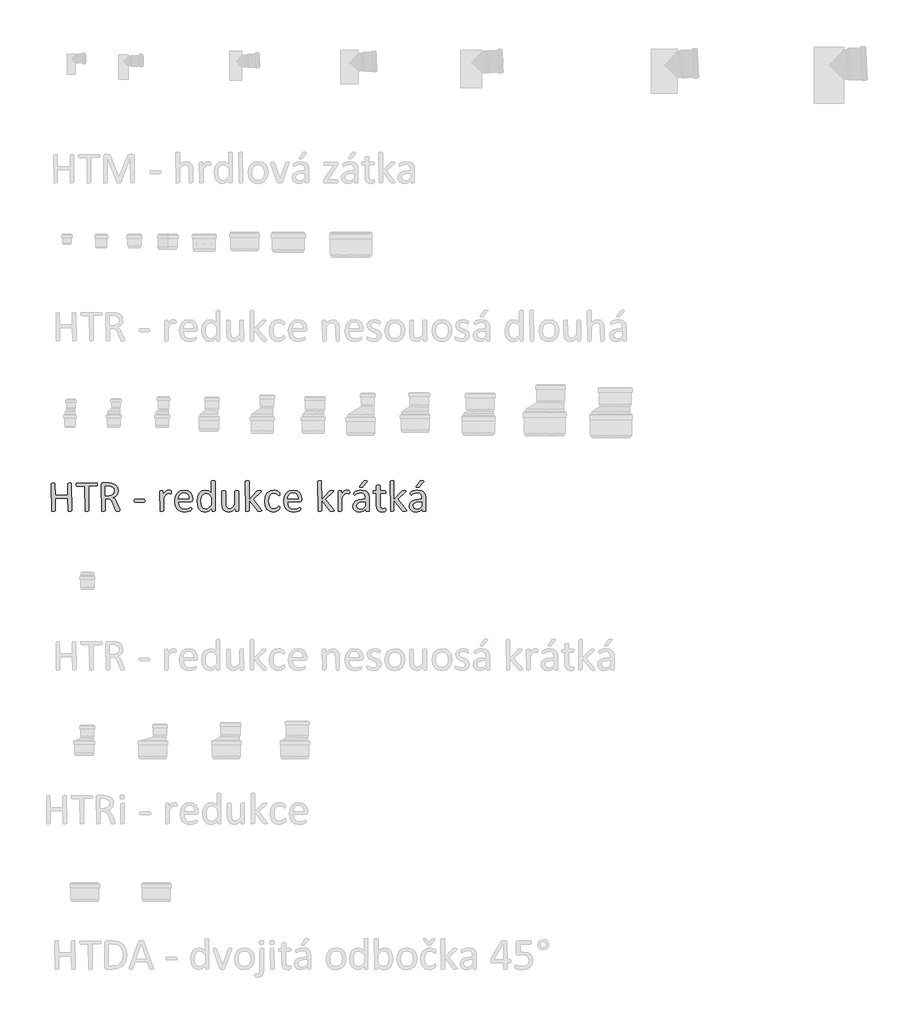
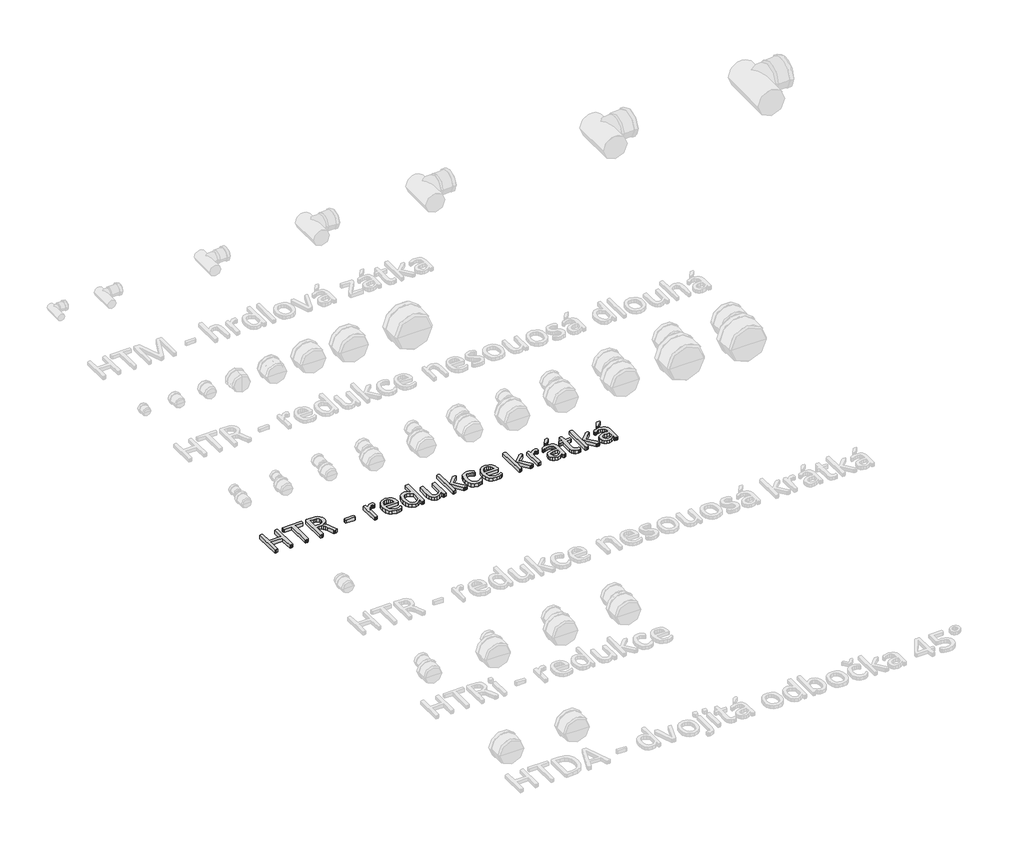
# One storey, part 19 of 26: 1 proxy.
"""IFC4 building model written with IfcOpenShell, lengths in millimetres."""

from ifc_helpers import new_model, si_unit, origin, origin_with_axes, place, context, project, spatial, polyline, outline, extrude, element, save

model = new_model("IFC4")

# Units and contexts
model_context = context("Model", 3, world=origin())
ifc_project = project(units=[si_unit("LENGTHUNIT", "METRE", prefix="MILLI")], contexts=[model_context])

# Site, building, storey
site = spatial("IfcSite", under=ifc_project)
building = spatial("IfcBuilding", under=site)
storey = spatial("IfcBuildingStorey", under=building, Name="Podlaží 1", Elevation=0.0)

# Proxy
placement = place(None, origin())
element("IfcBuildingElementProxy", 1, Name="120mm Arial", ObjectType="120mm Arial", at=placement, inside=storey, context=model_context, shape_type="SweptSolid", body=[
    extrude(outline(polyline([(-20480.0657483, 13861.6352271), (-20484.2817655, 13858.9029584), (-20488.1358927, 13858.66773), (-20492.1166815, 13858.9029584), (-20494.5775327, 13859.4457933), (-20496.2784151, 13914.2540162), (-20549.5486061, 13914.2540162), (-20549.5486061, 13861.5990381), (-20553.7465288, 13858.9029584), (-20557.6549395, 13858.66773), (-20561.5271613, 13858.9029584), (-20564.0603905, 13859.4638877), (-20565.7612729, 13976.1371865), (-20561.5271613, 13978.8694551), (-20557.6549395, 13979.1046835), (-20553.7465288, 13978.8694551), (-20551.2494886, 13978.3085258), (-20549.5486061, 13928.1505878), (-20496.2784151, 13928.1505878), (-20496.2784151, 13976.1371865), (-20492.1166815, 13978.8694551), (-20488.1358927, 13979.1046835), (-20484.2817655, 13978.8694551), (-20481.7666308, 13978.3085258), (-20480.0657483, 13861.6352271)])), origin_with_axes(), (0.0, 0.0, 1.0), 15.0),
    extrude(outline(polyline([(-20371.2092711, 13972.0478308), (-20371.390216, 13968.9174833), (-20371.9873343, 13966.782333), (-20408.2667952, 13965.208112), (-20408.2667952, 13861.6352271), (-20412.4647179, 13858.9029584), (-20416.3731287, 13858.66773), (-20420.2453504, 13858.9029584), (-20422.7785796, 13859.4638877), (-20424.4794621, 13965.208112), (-20458.3885442, 13965.208112), (-20461.3017578, 13968.9174833), (-20461.5369862, 13972.0478308), (-20461.3017578, 13975.2505563), (-20460.686545, 13977.4942735), (-20374.3939021, 13979.1046835), (-20372.0054288, 13977.4942735), (-20371.390216, 13975.2505563), (-20371.2092711, 13972.0478308)])), origin_with_axes(), (0.0, 0.0, 1.0), 15.0),
    extrude(outline(polyline([(-20275.4893967, 13861.5990381), (-20279.5606579, 13858.8486749), (-20284.0299979, 13858.66773), (-20287.9565032, 13858.8486749), (-20290.4173544, 13859.4457933), (-20291.8468194, 13860.5857464), (-20292.7153552, 13862.4313848), (-20303.7529966, 13890.2969059), (-20307.7518799, 13899.0184521), (-20312.6012043, 13905.8762654), (-20319.2056947, 13910.3456055), (-20328.3615088, 13911.937921), (-20338.7839374, 13911.937921), (-20338.7839374, 13861.5990381), (-20342.9818601, 13858.9029584), (-20346.8902709, 13858.66773), (-20350.7986816, 13858.9029584), (-20353.2957218, 13859.4638877), (-20354.9966043, 13972.6268546), (-20353.1328714, 13977.6752185), (-20349.1339881, 13979.1046835), (-20324.0188302, 13979.1046835), (-20316.6000875, 13978.8694551), (-20311.2441172, 13978.3447148), (-20299.1389006, 13974.544871), (-20290.3087874, 13967.9222861), (-20284.9709116, 13958.730283), (-20283.1976512, 13947.3307517), (-20284.7718722, 13936.4740551), (-20289.3316847, 13927.9877374), (-20296.47901, 13921.6184754), (-20305.815769, 13917.0405684), (-20300.4236097, 13913.7654649), (-20295.9180806, 13909.0247074), (-20291.9915754, 13902.6735399), (-20288.2641096, 13894.5672065), (-20277.51598, 13868.3301899), (-20275.8512866, 13863.6979994), (-20275.4893967, 13861.5990381)]), holes=[polyline([(-20299.410318, 13945.5936802), (-20302.5044765, 13957.2103455), (-20312.9088107, 13964.0500643), (-20318.0476471, 13964.9366946), (-20325.5749567, 13965.208112), (-20338.7839374, 13965.208112), (-20338.7839374, 13925.8344925), (-20323.4759953, 13925.8344925), (-20312.7640548, 13927.3182411), (-20305.2367452, 13931.4799747), (-20300.8216886, 13937.7587642), (-20299.410318, 13945.5936802)])]), origin_with_axes(), (0.0, 0.0, 1.0), 15.0),
    extrude(outline(polyline([(-20169.7089835, 13903.8677766), (-20170.5594247, 13899.307964), (-20173.0383704, 13898.0413494), (-20212.6291238, 13898.0413494), (-20215.1804474, 13899.344153), (-20216.0308887, 13903.8677766), (-20215.1804474, 13908.3552111), (-20212.6291238, 13909.6218257), (-20173.0383704, 13909.6218257), (-20169.9442119, 13906.5819507), (-20169.7089835, 13903.8677766)])), origin_with_axes(), (0.0, 0.0, 1.0), 15.0),
    extrude(outline(polyline([(-20058.536411, 13939.7310641), (-20058.6268835, 13936.4378662), (-20058.9887733, 13934.3027158), (-20062.5352942, 13933.0903847), (-20064.869484, 13933.9227315), (-20067.7826975, 13934.7188892), (-20071.2749349, 13935.0988736), (-20075.6899915, 13934.1036764), (-20080.2317096, 13930.8466674), (-20085.2076955, 13924.8392954), (-20090.9617446, 13915.6653868), (-20090.9617446, 13861.4904711), (-20095.0872893, 13858.8486749), (-20099.104267, 13858.66773), (-20103.0488668, 13858.8486749), (-20105.545907, 13859.3915098), (-20107.1744114, 13943.8566088), (-20103.4469456, 13946.5345939), (-20099.7918578, 13946.6793499), (-20096.2091479, 13946.5345939), (-20094.0016197, 13945.9917591), (-20092.5178711, 13931.8418646), (-20086.2571761, 13940.4186549), (-20080.7021664, 13945.6479637), (-20075.5271411, 13948.2716654), (-20070.3340212, 13948.9954451), (-20067.6922251, 13948.8687837), (-20064.5799721, 13948.3802323), (-20061.648664, 13947.5659801), (-20059.8030256, 13946.6793499), (-20058.5726, 13942.9880731), (-20058.536411, 13939.7310641)])), origin_with_axes(), (0.0, 0.0, 1.0), 15.0),
    extrude(outline(polyline([(-19968.2086958, 13906.9800296), (-19970.0000508, 13901.8773822), (-19974.107501, 13900.3574447), (-20028.4271726, 13900.3574447), (-20027.0700855, 13886.967519), (-20022.5645565, 13876.7622242), (-20014.3496561, 13870.2120173), (-20001.9730221, 13867.932111), (-19991.6953493, 13868.9996862), (-19983.8785278, 13871.4062539), (-19978.4682741, 13873.8128217), (-19975.2655486, 13874.8803968), (-19972.9675478, 13871.9852777), (-19972.8408864, 13869.3434816), (-19972.9313588, 13867.4073707), (-19977.3826044, 13862.0152114), (-19983.7337719, 13859.5181712), (-19992.781019, 13857.3287374), (-20003.7462825, 13856.3516347), (-20021.4246033, 13859.2467538), (-20034.1812218, 13867.8597331), (-20041.9980433, 13882.208667), (-20044.6398394, 13902.2392721), (-20041.8713818, 13921.7813258), (-20033.8917099, 13936.4740551), (-20021.2979419, 13945.7565307), (-20004.7595742, 13948.9954451), (-19988.1126395, 13945.8650976), (-19976.8035806, 13937.4330633), (-19970.2895627, 13925.0021458), (-19968.2086958, 13909.7665817), (-19968.2086958, 13906.9800296)]), holes=[polyline([(-19984.4213627, 13911.937921), (-19985.5929812, 13922.5639127), (-19989.6144825, 13930.6295335), (-19996.386347, 13935.71861), (-20005.8090548, 13937.4149688), (-20015.4534202, 13935.3160075), (-20022.3836115, 13929.7248088), (-20026.7081957, 13921.6003809), (-20028.4271726, 13911.937921), (-19984.4213627, 13911.937921)])]), origin_with_axes(), (0.0, 0.0, 1.0), 15.0),
    extrude(outline(polyline([(-19873.5744911, 13861.5628491), (-19876.9581615, 13858.8486749), (-19880.2694539, 13858.66773), (-19883.7074078, 13858.8486749), (-19885.9511251, 13859.3191318), (-19887.6158186, 13871.6233879), (-19901.0600278, 13860.386707), (-19916.3136864, 13856.3516347), (-19931.7301955, 13859.9524391), (-19942.0621517, 13869.687277), (-19947.8523898, 13884.1266834), (-19949.6799338, 13901.5878703), (-19947.4000275, 13921.2203965), (-19940.6688756, 13936.1664487), (-19929.6312342, 13945.6660582), (-19914.39567, 13948.9954451), (-19901.2409727, 13945.7565307), (-19889.461457, 13936.2569212), (-19889.461457, 13985.3653785), (-19887.7967635, 13987.5729068), (-19885.2997233, 13988.1338361), (-19881.4636906, 13988.3690646), (-19877.4467128, 13988.1338361), (-19875.0039561, 13987.5729068), (-19873.683058, 13986.6500876), (-19873.5744911, 13861.5628491)]), holes=[polyline([(-19889.461457, 13919.7547425), (-19901.0781223, 13931.1723683), (-19912.7671656, 13935.0988736), (-19922.3572475, 13932.3485105), (-19928.7626984, 13925.0926183), (-19932.3454083, 13914.8873235), (-19933.4672669, 13903.3249417), (-19932.5263532, 13891.0930636), (-19929.2512498, 13880.48969), (-19923.0629328, 13873.0528529), (-19913.3823784, 13870.2482063), (-19907.7007072, 13871.0624585), (-19902.091414, 13873.7585382), (-19896.1021364, 13878.6440516), (-19889.461457, 13886.0627943), (-19889.461457, 13919.7547425)])]), origin_with_axes(), (0.0, 0.0, 1.0), 15.0),
    extrude(outline(polyline([(-19773.656694, 13861.4904711), (-19777.5108213, 13858.8486749), (-19780.9668697, 13858.66773), (-19784.6581465, 13858.8486749), (-19786.9018638, 13859.3915098), (-19788.3132343, 13872.3833566), (-19802.1917114, 13860.1876675), (-19816.0701885, 13856.3516347), (-19829.894382, 13859.1381869), (-19838.9778181, 13866.6835909), (-19843.953804, 13877.7936104), (-19845.4556471, 13893.228214), (-19845.4556471, 13943.8204198), (-19843.7909536, 13945.9736646), (-19841.2577244, 13946.5345939), (-19837.3493137, 13946.6793499), (-19833.4409029, 13946.5345939), (-19830.9619572, 13945.9917591), (-19829.6410591, 13945.0870344), (-19829.2429802, 13895.7614432), (-19828.2296886, 13884.1628724), (-19825.1174356, 13876.7260352), (-19819.8338432, 13871.9490888), (-19812.3789116, 13870.2482063), (-19801.4317426, 13874.3194675), (-19789.8693608, 13886.2799282), (-19789.8693608, 13943.8566088), (-19788.2046674, 13945.9917591), (-19785.7076272, 13946.5345939), (-19781.7630274, 13946.6793499), (-19777.8546167, 13946.5345939), (-19775.4118599, 13945.9917591), (-19774.0909619, 13945.0870344), (-19773.656694, 13861.4904711)])), origin_with_axes(), (0.0, 0.0, 1.0), 15.0),
    extrude(outline(polyline([(-19676.3806931, 13861.5990381), (-19680.4519543, 13858.8486749), (-19684.4508375, 13858.66773), (-19688.5763822, 13858.812486), (-19691.3267453, 13859.2648483), (-19693.1361947, 13860.169573), (-19694.4028093, 13861.5990381), (-19729.6508841, 13907.1609745), (-19729.6508841, 13861.4904711), (-19733.7764287, 13858.8486749), (-19737.7934065, 13858.66773), (-19741.7380062, 13858.8486749), (-19744.2350464, 13859.4096043), (-19745.8635509, 13985.4015675), (-19741.7380062, 13988.1881196), (-19737.7934065, 13988.3690646), (-19733.7764287, 13988.1881196), (-19731.333672, 13987.6271903), (-19730.0489629, 13986.6862766), (-19729.6508841, 13909.2599358), (-19697.4426844, 13943.4947189), (-19695.8322744, 13944.9965619), (-19693.805691, 13945.9917591), (-19691.0191389, 13946.5345939), (-19687.1288226, 13946.6793499), (-19683.1480339, 13946.5345939), (-19680.5605212, 13946.0822316), (-19679.1310562, 13945.2679793), (-19679.3300956, 13941.739553), (-19681.4471515, 13939.1882293), (-19713.4382172, 13909.3685028), (-19678.6605994, 13865.9055277), (-19676.9054334, 13863.390393), (-19676.3806931, 13861.5990381)])), origin_with_axes(), (0.0, 0.0, 1.0), 15.0),
    extrude(outline(polyline([(-19599.9495495, 13875.3146647), (-19600.040022, 13872.7814355), (-19600.3657229, 13870.9719861), (-19602.3561172, 13867.3349927), (-19606.2464335, 13863.8065664), (-19612.416656, 13860.0610061), (-19619.8534931, 13857.3830209), (-19628.1769605, 13856.3516347), (-19643.8829815, 13859.3553208), (-19655.3367963, 13868.1311505), (-19662.3755546, 13882.281045), (-19664.8002168, 13901.6240593), (-19661.8327197, 13923.0660349), (-19653.7082918, 13937.7406697), (-19641.5668862, 13946.2269875), (-19626.439889, 13948.9954451), (-19618.8040125, 13948.1811929), (-19612.0004827, 13946.0460426), (-19606.4635674, 13943.0061676), (-19602.9532355, 13940.056765), (-19601.4513925, 13938.1206541), (-19600.7638017, 13936.5826221), (-19600.4019119, 13934.6827002), (-19600.3114394, 13932.0228096), (-19601.1256916, 13927.2096741), (-19603.0979915, 13925.8344925), (-19606.228339, 13927.2820521), (-19610.6976791, 13930.4666831), (-19617.2659805, 13933.651314), (-19626.3313221, 13935.0988736), (-19635.8535497, 13932.9999123), (-19642.8515953, 13926.7030283), (-19647.1535613, 13916.4072611), (-19648.58755, 13902.3116501), (-19647.1038014, 13888.3065115), (-19642.7249338, 13878.2459727), (-19635.6137976, 13872.2205062), (-19625.9694322, 13870.2482063), (-19616.9402796, 13872.0757502), (-19610.2091277, 13876.0927279), (-19605.4140868, 13880.0554222), (-19602.3742117, 13881.8286826), (-19600.076211, 13878.2640672), (-19599.9495495, 13875.3146647)])), origin_with_axes(), (0.0, 0.0, 1.0), 15.0),
    extrude(outline(polyline([(-19507.3057391, 13906.9800296), (-19509.097094, 13901.8773822), (-19513.2045442, 13900.3574447), (-19567.5242159, 13900.3574447), (-19566.1671288, 13886.967519), (-19561.6615997, 13876.7622242), (-19553.4466994, 13870.2120173), (-19541.0700653, 13867.932111), (-19530.7923926, 13868.9996862), (-19522.9755711, 13871.4062539), (-19517.5653173, 13873.8128217), (-19514.3625918, 13874.8803968), (-19512.0645911, 13871.9852777), (-19511.9379296, 13869.3434816), (-19512.0284021, 13867.4073707), (-19516.4796477, 13862.0152114), (-19522.8308151, 13859.5181712), (-19531.8780623, 13857.3287374), (-19542.8433257, 13856.3516347), (-19560.5216466, 13859.2467538), (-19573.278265, 13867.8597331), (-19581.0950865, 13882.208667), (-19583.7368827, 13902.2392721), (-19580.9684251, 13921.7813258), (-19572.9887531, 13936.4740551), (-19560.3949851, 13945.7565307), (-19543.8566174, 13948.9954451), (-19527.2096827, 13945.8650976), (-19515.9006239, 13937.4330633), (-19509.3866059, 13925.0021458), (-19507.3057391, 13909.7665817), (-19507.3057391, 13906.9800296)]), holes=[polyline([(-19523.5184059, 13911.937921), (-19524.6900244, 13922.5639127), (-19528.7115258, 13930.6295335), (-19535.4833902, 13935.71861), (-19544.9060981, 13937.4149688), (-19554.5504635, 13935.3160075), (-19561.4806548, 13929.7248088), (-19565.8052389, 13921.6003809), (-19567.5242159, 13911.937921), (-19523.5184059, 13911.937921)])]), origin_with_axes(), (0.0, 0.0, 1.0), 15.0),
    extrude(outline(polyline([(-19370.6561188, 13861.5990381), (-19374.72738, 13858.8486749), (-19378.7262632, 13858.66773), (-19382.8518079, 13858.812486), (-19385.602171, 13859.2648483), (-19387.4116204, 13860.169573), (-19388.678235, 13861.5990381), (-19423.9263097, 13907.1609745), (-19423.9263097, 13861.4904711), (-19428.0518544, 13858.8486749), (-19432.0688321, 13858.66773), (-19436.0134319, 13858.8486749), (-19438.5104721, 13859.4096043), (-19440.1389766, 13985.4015675), (-19436.0134319, 13988.1881196), (-19432.0688321, 13988.3690646), (-19428.0518544, 13988.1881196), (-19425.6090977, 13987.6271903), (-19424.3243886, 13986.6862766), (-19423.9263097, 13909.2599358), (-19391.71811, 13943.4947189), (-19390.1077, 13944.9965619), (-19388.0811167, 13945.9917591), (-19385.2945646, 13946.5345939), (-19381.4042483, 13946.6793499), (-19377.4234596, 13946.5345939), (-19374.8359469, 13946.0822316), (-19373.4064819, 13945.2679793), (-19373.6055213, 13941.739553), (-19375.7225771, 13939.1882293), (-19407.7136429, 13909.3685028), (-19372.936025, 13865.9055277), (-19371.1808591, 13863.390393), (-19370.6561188, 13861.5990381)])), origin_with_axes(), (0.0, 0.0, 1.0), 15.0),
    extrude(outline(polyline([(-19305.8054515, 13939.7310641), (-19305.895924, 13936.4378662), (-19306.2578138, 13934.3027158), (-19309.8043347, 13933.0903847), (-19312.1385245, 13933.9227315), (-19315.051738, 13934.7188892), (-19318.5439754, 13935.0988736), (-19322.959032, 13934.1036764), (-19327.50075, 13930.8466674), (-19332.476736, 13924.8392954), (-19338.2307851, 13915.6653868), (-19338.2307851, 13861.4904711), (-19342.3563298, 13858.8486749), (-19346.3733075, 13858.66773), (-19350.3179073, 13858.8486749), (-19352.8149475, 13859.3915098), (-19354.4434519, 13943.8566088), (-19350.7159861, 13946.5345939), (-19347.0608983, 13946.6793499), (-19343.4781884, 13946.5345939), (-19341.2706601, 13945.9917591), (-19339.7869116, 13931.8418646), (-19333.5262166, 13940.4186549), (-19327.9712069, 13945.6479637), (-19322.7961816, 13948.2716654), (-19317.6030617, 13948.9954451), (-19314.9612656, 13948.8687837), (-19311.8490125, 13948.3802323), (-19308.9177045, 13947.5659801), (-19307.0720661, 13946.6793499), (-19305.8416405, 13942.9880731), (-19305.8054515, 13939.7310641)])), origin_with_axes(), (0.0, 0.0, 1.0), 15.0),
    extrude(outline(polyline([(-19222.4260221, 13861.4542821), (-19223.2221799, 13859.7714942), (-19225.3935192, 13858.9391474), (-19229.4466859, 13858.66773), (-19233.5541361, 13858.9391474), (-19235.7797589, 13859.7714942), (-19236.4673496, 13861.4542821), (-19236.4673496, 13869.7777495), (-19248.6630387, 13860.1514785), (-19262.9215002, 13856.3516347), (-19274.8819609, 13858.0706117), (-19283.9834915, 13863.0465976), (-19289.8280131, 13871.044364), (-19291.9088799, 13881.8286826), (-19289.0318553, 13894.0967497), (-19280.780766, 13902.7459179), (-19267.6260687, 13907.9028488), (-19250.1105983, 13909.6218257), (-19238.6386889, 13909.6218257), (-19238.6386889, 13916.5339225), (-19239.6519806, 13925.5811696), (-19242.9089896, 13932.1313765), (-19248.7173222, 13936.0759763), (-19257.4931519, 13937.4149688), (-19267.5355962, 13935.9674093), (-19275.3162287, 13932.7827783), (-19280.9074274, 13929.5981473), (-19284.2368144, 13928.1505878), (-19287.0957445, 13931.6790142), (-19287.2766894, 13934.3389048), (-19286.9509885, 13938.1387486), (-19285.358673, 13940.7986393), (-19281.0159944, 13943.5128134), (-19273.9229527, 13946.1907985), (-19265.147123, 13948.1992874), (-19255.5389465, 13948.9954451), (-19240.1586265, 13946.9507673), (-19229.8990482, 13940.9795842), (-19224.1992826, 13931.2266518), (-19222.4260221, 13917.6195922), (-19222.4260221, 13861.4542821)]), holes=[polyline([(-19238.6386889, 13898.0413494), (-19251.5219688, 13898.0413494), (-19262.2700984, 13896.9737743), (-19269.8516915, 13893.8253323), (-19274.2848426, 13888.8312519), (-19275.6962131, 13882.1181945), (-19271.6430464, 13871.7681438), (-19260.279704, 13867.932111), (-19249.2782515, 13870.9900806), (-19238.6386889, 13880.3449341), (-19238.6386889, 13898.0413494)])]), origin_with_axes(), (0.0, 0.0, 1.0), 15.0),
    extrude(outline(polyline([(-19247.939259, 13985.0758666), (-19246.6002664, 13986.6681821), (-19244.7365335, 13987.6452848), (-19242.0042649, 13988.1881196), (-19238.0958541, 13988.3690646), (-19233.7531755, 13988.0614582), (-19231.4370802, 13987.1748279), (-19231.6904032, 13984.2435199), (-19248.9887396, 13963.4348515), (-19250.3820157, 13962.0053865), (-19251.8114807, 13961.1549453), (-19253.9104421, 13960.7025829), (-19257.131262, 13960.5759214), (-19260.460649, 13960.8473389), (-19262.1977204, 13961.5711186), (-19261.7996415, 13964.4119542), (-19247.939259, 13985.0758666)])), origin_with_axes(), (0.0, 0.0, 1.0), 15.0),
    extrude(outline(polyline([(-19152.9431643, 13866.9911973), (-19153.3050542, 13862.4675738), (-19154.4088184, 13860.0067226), (-19156.6163466, 13858.5229741), (-19159.9638281, 13857.3830209), (-19163.9627113, 13856.6411467), (-19168.1787285, 13856.3516347), (-19179.1982754, 13858.1068007), (-19186.7074905, 13863.4084875), (-19190.9777912, 13872.4014511), (-19192.3167837, 13885.2666365), (-19192.3167837, 13935.0988736), (-19203.3182362, 13935.0988736), (-19205.435292, 13936.4559607), (-19206.2133553, 13940.8529227), (-19205.9962214, 13943.5490024), (-19205.435292, 13945.3765463), (-19192.3167837, 13946.6793499), (-19192.3167837, 13966.8366164), (-19190.6882793, 13969.0441447), (-19188.1912391, 13969.6593575), (-19184.2466393, 13969.8403025), (-19180.2296616, 13969.6593575), (-19177.7869049, 13969.0441447), (-19176.5021958, 13968.0489476), (-19176.1041169, 13946.6793499), (-19155.8382834, 13946.6793499), (-19153.1241093, 13943.5490024), (-19152.9431643, 13940.8529227), (-19153.7393221, 13936.4559607), (-19155.8382834, 13935.0988736), (-19176.1041169, 13935.0988736), (-19176.1041169, 13887.9084327), (-19173.6975492, 13874.7175464), (-19165.0664754, 13870.2482063), (-19161.4656711, 13870.6643797), (-19158.6610245, 13871.5329154), (-19156.5439687, 13872.4195456), (-19154.9697477, 13872.8538135), (-19153.1241093, 13869.9225054), (-19152.9431643, 13866.9911973)])), origin_with_axes(), (0.0, 0.0, 1.0), 15.0),
    extrude(outline(polyline([(-19064.9315444, 13861.5990381), (-19069.0028056, 13858.8486749), (-19073.0016889, 13858.66773), (-19077.1272335, 13858.812486), (-19079.8775967, 13859.2648483), (-19081.6870461, 13860.169573), (-19082.9536607, 13861.5990381), (-19118.2017354, 13907.1609745), (-19118.2017354, 13861.4904711), (-19122.3272801, 13858.8486749), (-19126.3442578, 13858.66773), (-19130.2888576, 13858.8486749), (-19132.7858978, 13859.4096043), (-19134.4144022, 13985.4015675), (-19130.2888576, 13988.1881196), (-19126.3442578, 13988.3690646), (-19122.3272801, 13988.1881196), (-19119.8845234, 13987.6271903), (-19118.5998143, 13986.6862766), (-19118.2017354, 13909.2599358), (-19085.9935357, 13943.4947189), (-19084.3831257, 13944.9965619), (-19082.3565424, 13945.9917591), (-19079.5699903, 13946.5345939), (-19075.679674, 13946.6793499), (-19071.6988853, 13946.5345939), (-19069.1113726, 13946.0822316), (-19067.6819076, 13945.2679793), (-19067.880947, 13941.739553), (-19069.9980028, 13939.1882293), (-19101.9890686, 13909.3685028), (-19067.2114507, 13865.9055277), (-19065.4562848, 13863.390393), (-19064.9315444, 13861.5990381)])), origin_with_axes(), (0.0, 0.0, 1.0), 15.0),
    extrude(outline(polyline([(-18983.8682103, 13861.4542821), (-18984.6643681, 13859.7714942), (-18986.8357074, 13858.9391474), (-18990.8888741, 13858.66773), (-18994.9963243, 13858.9391474), (-18997.2219471, 13859.7714942), (-18997.9095379, 13861.4542821), (-18997.9095379, 13869.7777495), (-19010.105227, 13860.1514785), (-19024.3636884, 13856.3516347), (-19036.3241491, 13858.0706117), (-19045.4256797, 13863.0465976), (-19051.2702013, 13871.044364), (-19053.3510681, 13881.8286826), (-19050.4740436, 13894.0967497), (-19042.2229542, 13902.7459179), (-19029.0682569, 13907.9028488), (-19011.5527865, 13909.6218257), (-19000.0808772, 13909.6218257), (-19000.0808772, 13916.5339225), (-19001.0941688, 13925.5811696), (-19004.3511778, 13932.1313765), (-19010.1595104, 13936.0759763), (-19018.9353401, 13937.4149688), (-19028.9777844, 13935.9674093), (-19036.7584169, 13932.7827783), (-19042.3496157, 13929.5981473), (-19045.6790026, 13928.1505878), (-19048.5379327, 13931.6790142), (-19048.7188776, 13934.3389048), (-19048.3931767, 13938.1387486), (-19046.8008612, 13940.7986393), (-19042.4581826, 13943.5128134), (-19035.3651409, 13946.1907985), (-19026.5893112, 13948.1992874), (-19016.9811348, 13948.9954451), (-19001.6008147, 13946.9507673), (-18991.3412365, 13940.9795842), (-18985.6414708, 13931.2266518), (-18983.8682103, 13917.6195922), (-18983.8682103, 13861.4542821)]), holes=[polyline([(-19000.0808772, 13898.0413494), (-19012.964157, 13898.0413494), (-19023.7122866, 13896.9737743), (-19031.2938797, 13893.8253323), (-19035.7270308, 13888.8312519), (-19037.1384013, 13882.1181945), (-19033.0852346, 13871.7681438), (-19021.7218922, 13867.932111), (-19010.7204398, 13870.9900806), (-19000.0808772, 13880.3449341), (-19000.0808772, 13898.0413494)])]), origin_with_axes(), (0.0, 0.0, 1.0), 15.0),
    extrude(outline(polyline([(-19009.3814472, 13985.0758666), (-19008.0424546, 13986.6681821), (-19006.1787217, 13987.6452848), (-19003.4464531, 13988.1881196), (-18999.5380423, 13988.3690646), (-18995.1953637, 13988.0614582), (-18992.8792685, 13987.1748279), (-18993.1325914, 13984.2435199), (-19010.4309279, 13963.4348515), (-19011.8242039, 13962.0053865), (-19013.253669, 13961.1549453), (-19015.3526303, 13960.7025829), (-19018.5734503, 13960.5759214), (-19021.9028372, 13960.8473389), (-19023.6399086, 13961.5711186), (-19023.2418298, 13964.4119542), (-19009.3814472, 13985.0758666)])), origin_with_axes(), (0.0, 0.0, 1.0), 15.0),
])

save(model, "model.ifc")
